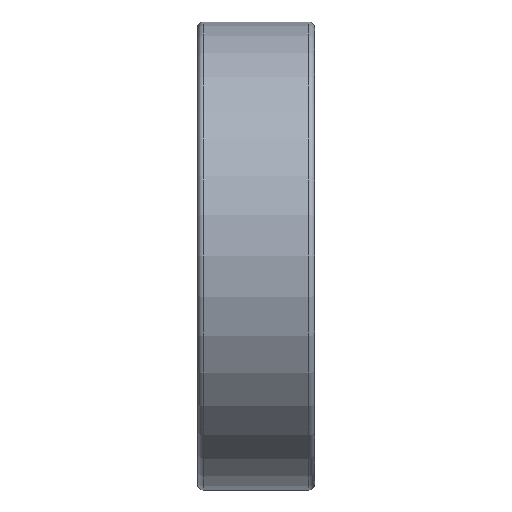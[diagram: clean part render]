
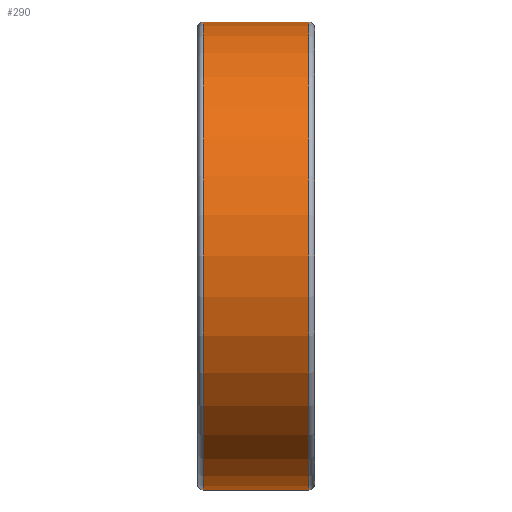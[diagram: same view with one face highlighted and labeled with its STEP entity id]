
A CAD part, front view. The second image highlights one B-rep face of the part: STEP entity #290.
In plain terms, the highlighted cylindrical face has radius 12 mm (diameter 24 mm), a full revolution.
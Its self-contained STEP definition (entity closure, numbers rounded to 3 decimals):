
#234=CYLINDRICAL_SURFACE('',#947,12.);
#290=ADVANCED_FACE('',(#431,#432),#234,.T.);
#431=FACE_BOUND('',#559,.T.);
#432=FACE_BOUND('',#560,.T.);
#559=EDGE_LOOP('',(#683));
#560=EDGE_LOOP('',(#684));
#683=ORIENTED_EDGE('',*,*,#827,.T.);
#684=ORIENTED_EDGE('',*,*,#826,.F.);
#760=VERTEX_POINT('',#3039);
#761=VERTEX_POINT('',#3042);
#826=EDGE_CURVE('',#760,#760,#858,.T.);
#827=EDGE_CURVE('',#761,#761,#859,.T.);
#858=CIRCLE('',#944,12.);
#859=CIRCLE('',#946,12.);
#944=AXIS2_PLACEMENT_3D('',#3038,#1121,#1122);
#946=AXIS2_PLACEMENT_3D('',#3041,#1125,#1126);
#947=AXIS2_PLACEMENT_3D('',#3043,#1127,#1128);
#1121=DIRECTION('',(-1.,0.,0.));
#1122=DIRECTION('',(0.,0.,1.));
#1125=DIRECTION('',(-1.,0.,0.));
#1126=DIRECTION('',(0.,0.,1.));
#1127=DIRECTION('',(-1.,0.,0.));
#1128=DIRECTION('',(0.,0.,1.));
#3038=CARTESIAN_POINT('',(0.3,0.,0.));
#3039=CARTESIAN_POINT('',(0.3,0.,12.));
#3041=CARTESIAN_POINT('',(5.7,0.,0.));
#3042=CARTESIAN_POINT('',(5.7,0.,12.));
#3043=CARTESIAN_POINT('',(6.,0.,0.));
